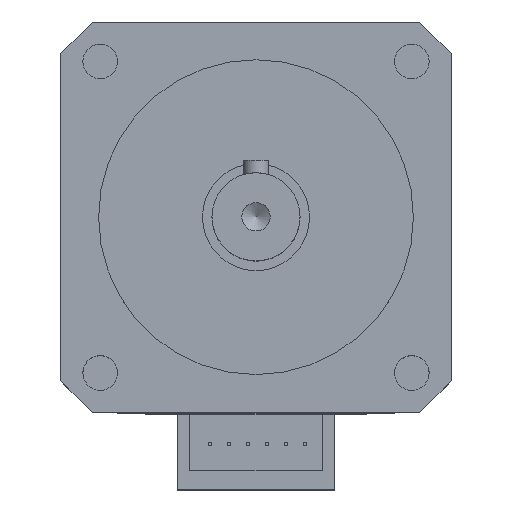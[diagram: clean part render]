
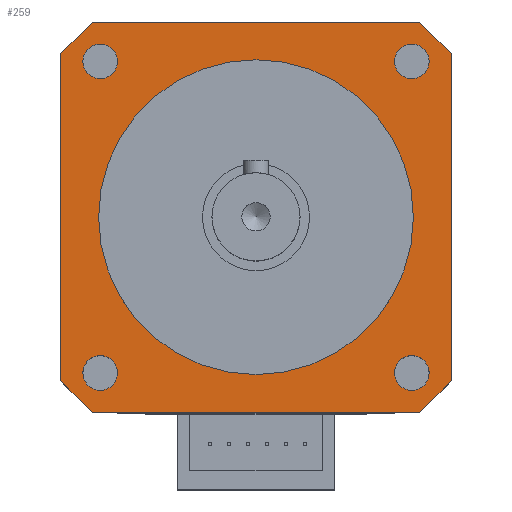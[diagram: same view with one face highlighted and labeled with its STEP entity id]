
A CAD part, top view. The second image highlights one B-rep face of the part: STEP entity #259.
In plain terms, the highlighted planar face has unit normal (0, 0, 1).
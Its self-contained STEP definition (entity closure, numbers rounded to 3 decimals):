
#259=ADVANCED_FACE('',(#968,#969,#970,#971,#972,#973),#390,.F.);
#390=PLANE('',#2465);
#489=LINE('',#3434,#729);
#490=LINE('',#3437,#730);
#491=LINE('',#3439,#731);
#492=LINE('',#3441,#732);
#493=LINE('',#3443,#733);
#494=LINE('',#3445,#734);
#495=LINE('',#3447,#735);
#496=LINE('',#3449,#736);
#729=VECTOR('',#2697,1.);
#730=VECTOR('',#2698,1.);
#731=VECTOR('',#2699,1.);
#732=VECTOR('',#2700,1.);
#733=VECTOR('',#2701,1.);
#734=VECTOR('',#2702,1.);
#735=VECTOR('',#2703,1.);
#736=VECTOR('',#2704,1.);
#968=FACE_BOUND('',#1024,.T.);
#969=FACE_BOUND('',#1025,.T.);
#970=FACE_BOUND('',#1026,.T.);
#971=FACE_BOUND('',#1027,.T.);
#972=FACE_BOUND('',#1028,.T.);
#973=FACE_BOUND('',#1029,.T.);
#1024=EDGE_LOOP('',(#1200));
#1025=EDGE_LOOP('',(#1201));
#1026=EDGE_LOOP('',(#1202,#1203,#1204,#1205,#1206,#1207,#1208,#1209));
#1027=EDGE_LOOP('',(#1210));
#1028=EDGE_LOOP('',(#1211));
#1029=EDGE_LOOP('',(#1212));
#1200=ORIENTED_EDGE('',*,*,#2067,.F.);
#1201=ORIENTED_EDGE('',*,*,#2068,.F.);
#1202=ORIENTED_EDGE('',*,*,#2069,.F.);
#1203=ORIENTED_EDGE('',*,*,#2070,.T.);
#1204=ORIENTED_EDGE('',*,*,#2071,.F.);
#1205=ORIENTED_EDGE('',*,*,#2072,.T.);
#1206=ORIENTED_EDGE('',*,*,#2073,.F.);
#1207=ORIENTED_EDGE('',*,*,#2074,.T.);
#1208=ORIENTED_EDGE('',*,*,#2075,.F.);
#1209=ORIENTED_EDGE('',*,*,#2076,.T.);
#1210=ORIENTED_EDGE('',*,*,#2077,.T.);
#1211=ORIENTED_EDGE('',*,*,#2078,.F.);
#1212=ORIENTED_EDGE('',*,*,#2079,.T.);
#1844=VERTEX_POINT('',#3431);
#1845=VERTEX_POINT('',#3433);
#1846=VERTEX_POINT('',#3435);
#1847=VERTEX_POINT('',#3436);
#1848=VERTEX_POINT('',#3438);
#1849=VERTEX_POINT('',#3440);
#1850=VERTEX_POINT('',#3442);
#1851=VERTEX_POINT('',#3444);
#1852=VERTEX_POINT('',#3446);
#1853=VERTEX_POINT('',#3448);
#1854=VERTEX_POINT('',#3451);
#1855=VERTEX_POINT('',#3453);
#1856=VERTEX_POINT('',#3455);
#2067=EDGE_CURVE('',#1844,#1844,#2377,.T.);
#2068=EDGE_CURVE('',#1845,#1845,#2378,.T.);
#2069=EDGE_CURVE('',#1846,#1847,#489,.T.);
#2070=EDGE_CURVE('',#1846,#1848,#490,.T.);
#2071=EDGE_CURVE('',#1849,#1848,#491,.T.);
#2072=EDGE_CURVE('',#1849,#1850,#492,.T.);
#2073=EDGE_CURVE('',#1851,#1850,#493,.T.);
#2074=EDGE_CURVE('',#1851,#1852,#494,.T.);
#2075=EDGE_CURVE('',#1853,#1852,#495,.T.);
#2076=EDGE_CURVE('',#1853,#1847,#496,.T.);
#2077=EDGE_CURVE('',#1854,#1854,#2379,.T.);
#2078=EDGE_CURVE('',#1855,#1855,#2380,.T.);
#2079=EDGE_CURVE('',#1856,#1856,#2381,.T.);
#2377=CIRCLE('',#2460,2.75);
#2378=CIRCLE('',#2461,2.75);
#2379=CIRCLE('',#2462,25.);
#2380=CIRCLE('',#2463,2.75);
#2381=CIRCLE('',#2464,2.75);
#2460=AXIS2_PLACEMENT_3D('',#3430,#2693,#2694);
#2461=AXIS2_PLACEMENT_3D('',#3432,#2695,#2696);
#2462=AXIS2_PLACEMENT_3D('',#3450,#2705,#2706);
#2463=AXIS2_PLACEMENT_3D('',#3452,#2707,#2708);
#2464=AXIS2_PLACEMENT_3D('',#3454,#2709,#2710);
#2465=AXIS2_PLACEMENT_3D('',#3456,#2711,#2712);
#2693=DIRECTION('',(0.,0.,1.));
#2694=DIRECTION('',(1.,0.,0.));
#2695=DIRECTION('',(0.,0.,1.));
#2696=DIRECTION('',(1.,0.,0.));
#2697=DIRECTION('',(0.,1.,0.));
#2698=DIRECTION('',(0.707,-0.707,0.));
#2699=DIRECTION('',(-1.,0.,0.));
#2700=DIRECTION('',(0.707,0.707,0.));
#2701=DIRECTION('',(0.,-1.,0.));
#2702=DIRECTION('',(-0.707,0.707,0.));
#2703=DIRECTION('',(1.,0.,0.));
#2704=DIRECTION('',(-0.707,-0.707,0.));
#2705=DIRECTION('',(0.,0.,-1.));
#2706=DIRECTION('',(1.,0.,0.));
#2707=DIRECTION('',(0.,0.,1.));
#2708=DIRECTION('',(1.,0.,0.));
#2709=DIRECTION('',(0.,0.,-1.));
#2710=DIRECTION('',(1.,0.,0.));
#2711=DIRECTION('',(0.,0.,-1.));
#2712=DIRECTION('',(-1.,0.,0.));
#3430=CARTESIAN_POINT('',(-24.749,24.749,0.));
#3431=CARTESIAN_POINT('',(-21.999,24.749,0.));
#3432=CARTESIAN_POINT('',(24.749,-24.749,0.));
#3433=CARTESIAN_POINT('',(27.499,-24.749,0.));
#3434=CARTESIAN_POINT('',(-31.,-31.,0.));
#3435=CARTESIAN_POINT('',(-31.,-26.,0.));
#3436=CARTESIAN_POINT('',(-31.,26.,0.));
#3437=CARTESIAN_POINT('',(-31.,-26.,0.));
#3438=CARTESIAN_POINT('',(-26.,-31.,0.));
#3439=CARTESIAN_POINT('',(31.,-31.,0.));
#3440=CARTESIAN_POINT('',(26.,-31.,0.));
#3441=CARTESIAN_POINT('',(26.,-31.,0.));
#3442=CARTESIAN_POINT('',(31.,-26.,0.));
#3443=CARTESIAN_POINT('',(31.,31.,0.));
#3444=CARTESIAN_POINT('',(31.,26.,0.));
#3445=CARTESIAN_POINT('',(31.,26.,0.));
#3446=CARTESIAN_POINT('',(26.,31.,0.));
#3447=CARTESIAN_POINT('',(-31.,31.,0.));
#3448=CARTESIAN_POINT('',(-26.,31.,0.));
#3449=CARTESIAN_POINT('',(-26.,31.,0.));
#3450=CARTESIAN_POINT('',(0.,0.,0.));
#3451=CARTESIAN_POINT('',(25.,0.,0.));
#3452=CARTESIAN_POINT('',(24.749,24.749,0.));
#3453=CARTESIAN_POINT('',(27.499,24.749,0.));
#3454=CARTESIAN_POINT('',(-24.749,-24.749,0.));
#3455=CARTESIAN_POINT('',(-21.999,-24.749,0.));
#3456=CARTESIAN_POINT('',(-31.,-31.,0.));
